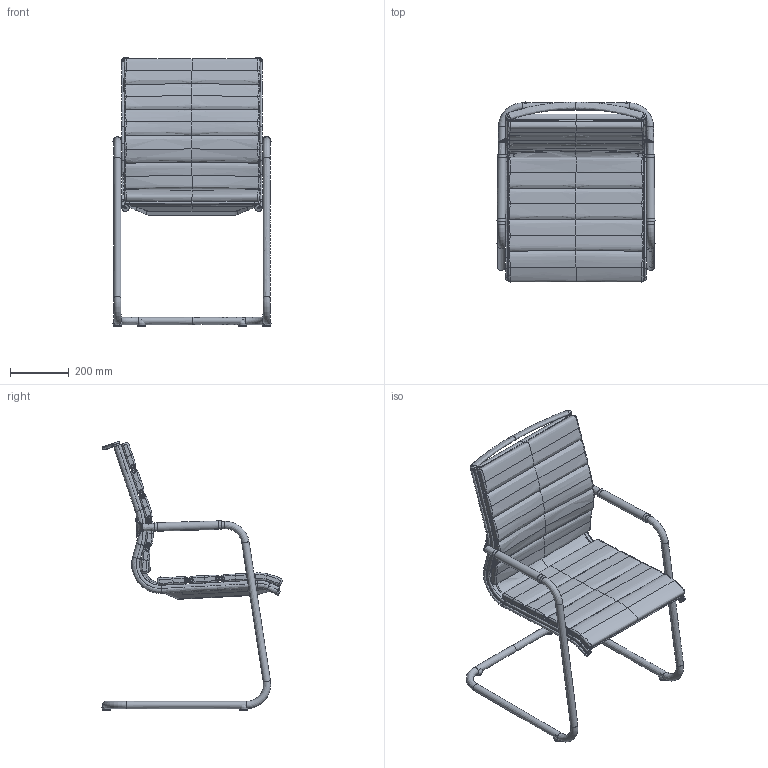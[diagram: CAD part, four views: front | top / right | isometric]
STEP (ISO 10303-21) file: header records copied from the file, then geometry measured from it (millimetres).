
FILE_DESCRIPTION(/* description */ (''),/* implementation_level */ '2;1');
FILE_NAME(/* name */ 'PLUTO6~3',/* time_stamp */ '2018-04-10T14:54:47+02:00',/* author */ (''),/* organization */ (''),/* preprocessor_version */ 'ST-DEVELOPER v16.5',/* originating_system */ '',/* authorisation */ '');
FILE_SCHEMA (('AUTOMOTIVE_DESIGN'));
Length unit declared in the file: millimetre
Products named in the file (1): Document
Bounding box: 539.81 x 615.2 x 917.21 mm (x, y, z)
Volume: 16735394 mm3; surface area: 2549985.7 mm2
Topology: 12 solids, 32 shells, 530 faces, 1375 edges, 883 vertices
Faces by surface type: bspline 496, plane 34
Entity records: 62059 total; most frequent: CARTESIAN_POINT 53775, ORIENTED_EDGE 2616, EDGE_CURVE 1372, B_SPLINE_CURVE_WITH_KNOTS 1134, VERTEX_POINT 877, ADVANCED_FACE 530, FACE_OUTER_BOUND 530, EDGE_LOOP 530
